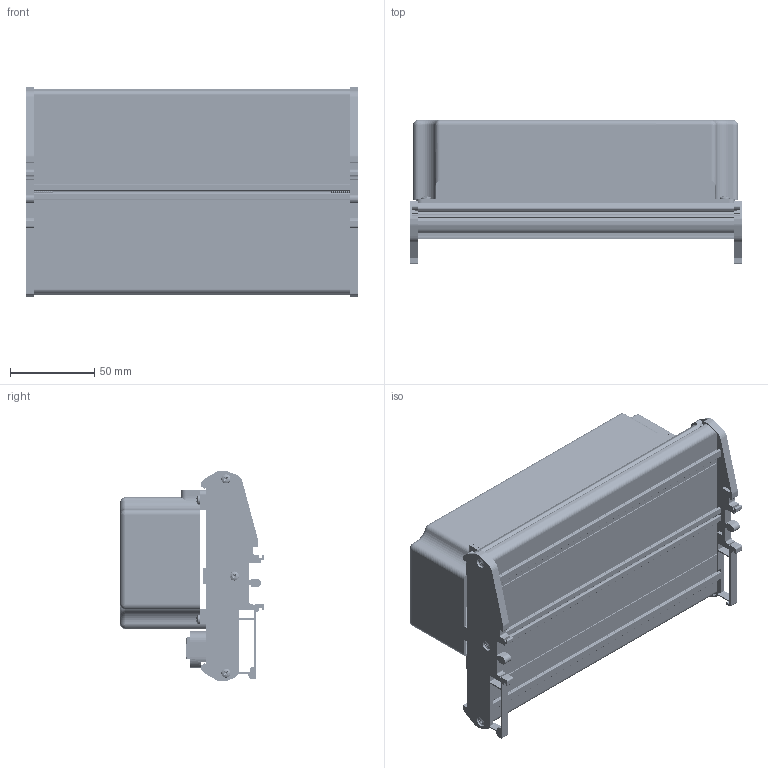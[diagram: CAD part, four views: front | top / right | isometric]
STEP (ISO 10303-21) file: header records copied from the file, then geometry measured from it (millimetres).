
FILE_DESCRIPTION((''),'2;1');
FILE_NAME('CU_TBX-2808','2012-07-11T',('jjorden'),(''),'PRO/ENGINEER BY PARAMETRIC TECHNOLOGY CORPORATION, 2010230','PRO/ENGINEER BY PARAMETRIC TECHNOLOGY CORPORATION, 2010230','');
FILE_SCHEMA(('CONFIG_CONTROL_DESIGN'));
Products named in the file (1): CU_TBX-2808
Bounding box: 197.34 x 85.5 x 125.4 mm (x, y, z)
Volume: 241663.6 mm3; surface area: 227130.4 mm2
Topology: 1 solids, 1 shells, 8491 faces, 26173 edges, 17360 vertices
Faces by surface type: plane 4167, cylinder 4096, cone 128, torus 36, bspline 36, sphere 28
Entity records: 331020 total; most frequent: CARTESIAN_POINT 95827, ORIENTED_EDGE 52274, DIRECTION 45850, EDGE_CURVE 26137, VERTEX_POINT 17360, VECTOR 16876, LINE 16876, AXIS2_PLACEMENT_3D 14487
